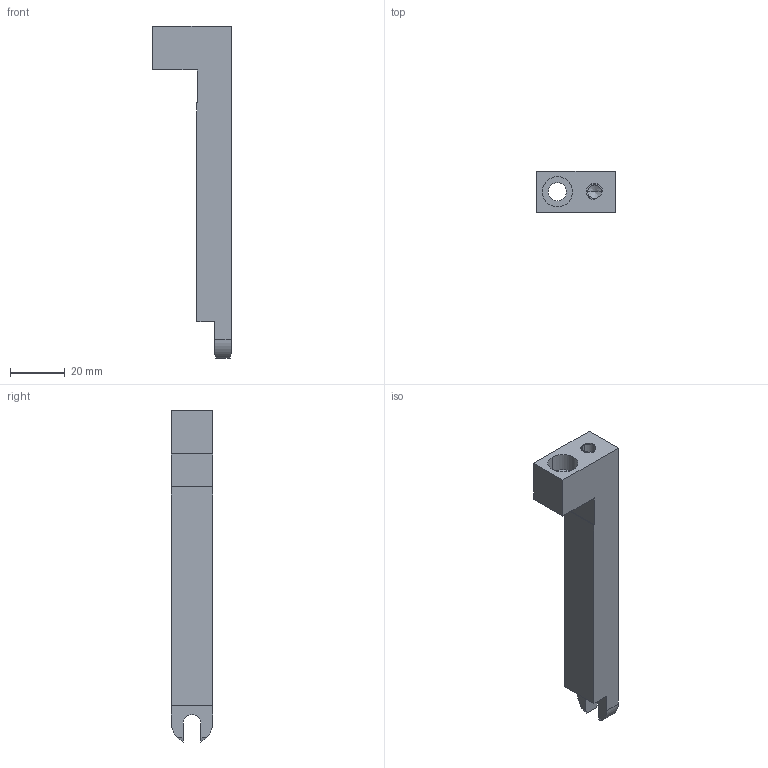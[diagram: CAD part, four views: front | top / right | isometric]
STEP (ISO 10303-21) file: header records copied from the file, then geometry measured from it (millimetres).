
FILE_DESCRIPTION (( 'STEP AP203' ), '1' );
FILE_NAME ('014 Verrou.STEP', '2021-10-27T18:22:45', ( '' ), ( '' ), 'SwSTEP 2.0', 'SolidWorks 2019', '' );
FILE_SCHEMA (( 'CONFIG_CONTROL_DESIGN' ));
Length unit declared in the file: millimetre
Products named in the file (1): 014 Verrou
Bounding box: 28.5 x 15 x 120.76 mm (x, y, z)
Volume: 23466.9 mm3; surface area: 8579.1 mm2
Topology: 1 solids, 1 shells, 35 faces, 93 edges, 61 vertices
Faces by surface type: plane 21, cylinder 12, bspline 2
Entity records: 1162 total; most frequent: CARTESIAN_POINT 210, ORIENTED_EDGE 182, DIRECTION 181, EDGE_CURVE 91, LINE 61, VECTOR 61, VERTEX_POINT 61, AXIS2_PLACEMENT_3D 60
